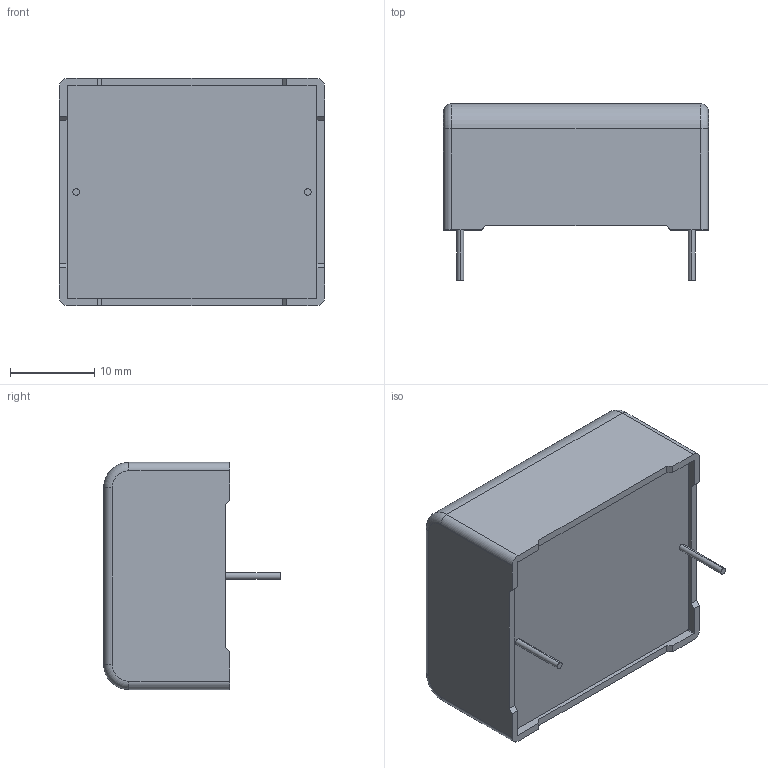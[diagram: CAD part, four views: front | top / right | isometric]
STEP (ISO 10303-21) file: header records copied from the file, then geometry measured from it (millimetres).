
FILE_DESCRIPTION (( 'STEP AP203' ), '1' );
FILE_NAME ('DC_Link_27x15x31.5_2pins.step', '2017-04-03T15:59:58', ( 'work' ), ( 'Hewlett-Packard Company' ), 'SwSTEP 2.0', 'SolidWorks 2017', '' );
FILE_SCHEMA (( 'CONFIG_CONTROL_DESIGN' ));
Length unit declared in the file: millimetre
Products named in the file (1): DC_Link_27x15x31.5_2pins
Bounding box: 31.5 x 21 x 27 mm (x, y, z)
Volume: 11835.8 mm3; surface area: 3386.5 mm2
Topology: 1 solids, 1 shells, 116 faces, 307 edges, 202 vertices
Faces by surface type: plane 80, cylinder 16, bspline 16, torus 4
Entity records: 4332 total; most frequent: CARTESIAN_POINT 1450, ORIENTED_EDGE 614, DIRECTION 513, EDGE_CURVE 307, VECTOR 239, LINE 239, VERTEX_POINT 202, AXIS2_PLACEMENT_3D 137
